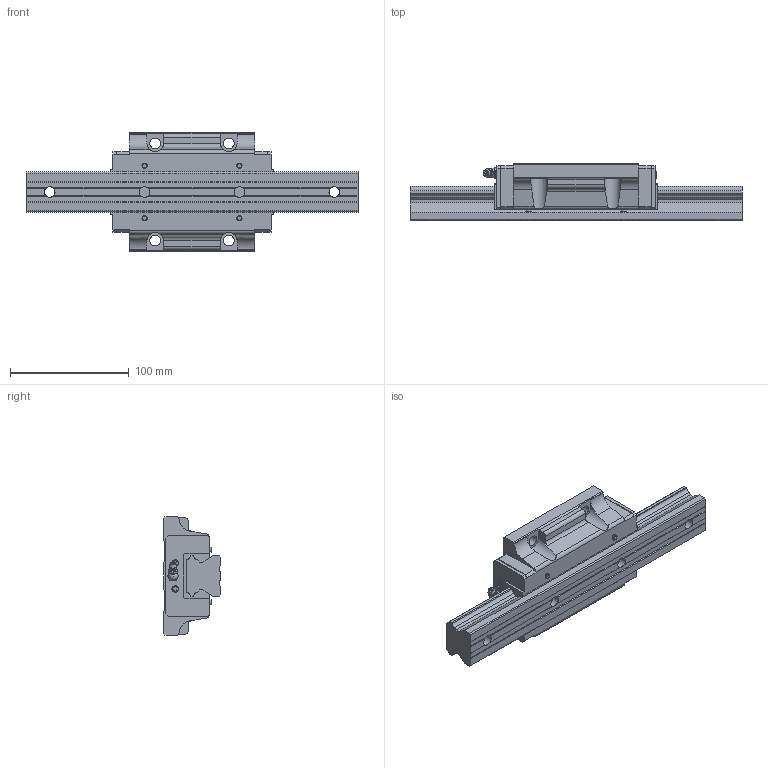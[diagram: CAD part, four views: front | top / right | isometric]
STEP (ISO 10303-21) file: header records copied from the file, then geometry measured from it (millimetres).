
FILE_DESCRIPTION(/* description */ ('STEP AP203'),/* implementation_level */ '2;1');
FILE_NAME(/* name */ 'HSR35M1LB1SS-280L_G20_0_B-M6F_71-3_0_0_0',/* time_stamp */ '2024-05-23T06:17:56+02:00',/* author */ ('License CC BY-ND 4.0'),/* organization */ ('CADENAS'),/* preprocessor_version */ 'ST-DEVELOPER v19.3',/* originating_system */ 'PARTsolutions',/* authorisation */ ' ');
FILE_SCHEMA (('CONFIG_CONTROL_DESIGN'));
Length unit declared in the file: millimetre
Products named in the file (4): HSR35M1LB1SS-280L_G20_0_B-M6F_71-3_0_0_0; HSR35M1LB128020 Rail; HSR35M1LBSSB-M6F Slider; hsr_ftht_B-M6F_grease_nipple_joint
Assembly tree (3 placements, depth 2):
  HSR35M1LB1SS-280L_G20_0_B-M6F_71-3_0_0_0
    HSR35M1LB128020 Rail
    HSR35M1LBSSB-M6F Slider
    hsr_ftht_B-M6F_grease_nipple_joint
Bounding box: 280 x 48 x 100 mm (x, y, z)
Volume: 564963.1 mm3; surface area: 90111.8 mm2
Topology: 3 solids, 3 shells, 290 faces, 790 edges, 519 vertices
Faces by surface type: plane 214, cylinder 50, cone 13, torus 10, sphere 3
Full cylindrical faces by diameter (mm): 4.369 x4, 4.917 x2, 5.7 x4, 6 x1, 8 x1, 9 x8, 14 x4
Entity records: 9001 total; most frequent: CARTESIAN_POINT 1705, ORIENTED_EDGE 1468, DIRECTION 1448, EDGE_CURVE 734, LINE 536, VECTOR 536, VERTEX_POINT 509, AXIS2_PLACEMENT_3D 456
